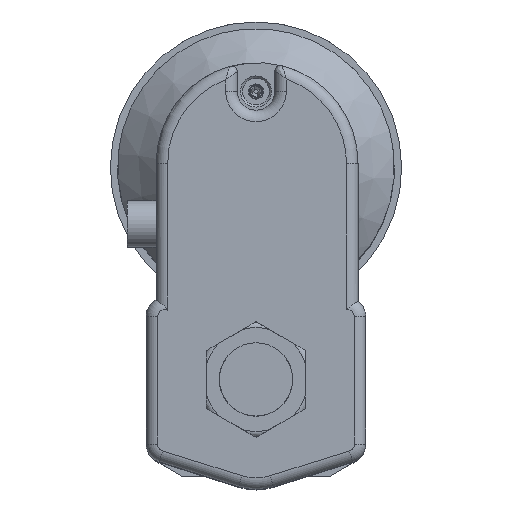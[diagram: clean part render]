
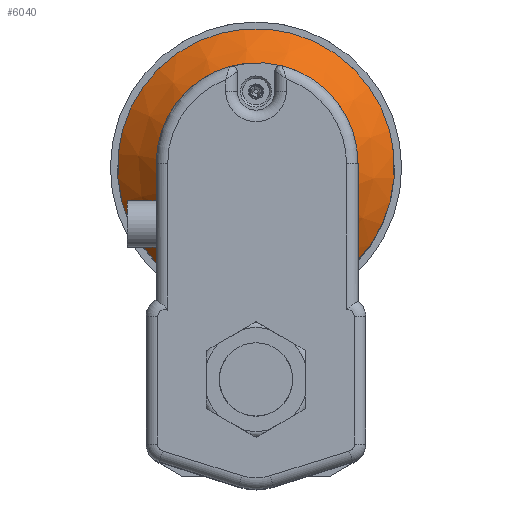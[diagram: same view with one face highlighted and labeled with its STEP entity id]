
A CAD part, top view. The second image highlights one B-rep face of the part: STEP entity #6040.
In plain terms, the highlighted conical face has half-angle 45 degrees and reference radius 48 mm.
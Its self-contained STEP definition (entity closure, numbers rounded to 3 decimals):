
#127 = VERTEX_POINT ( 'NONE', #240 ) ;
#145 = VERTEX_POINT ( 'NONE', #306 ) ;
#240 = CARTESIAN_POINT ( 'NONE',  ( 27.908, 34.847, 53.5 ) ) ;
#306 = CARTESIAN_POINT ( 'NONE',  ( -27.908, 34.847, 53.5 ) ) ;
#928 = CIRCLE ( 'NONE', #3427, 48. ) ;
#930 = CIRCLE ( 'NONE', #3430, 34. ) ;
#1271 = FACE_OUTER_BOUND ( 'NONE', #5586, .T. ) ;
#1272 = CONICAL_SURFACE ( 'NONE', #2728, 48., 0.785 ) ;
#1274 = FACE_BOUND ( 'NONE', #5624, .T. ) ;
#2075 = DIRECTION ( 'NONE',  ( 0., 1., 0. ) ) ;
#2086 = CARTESIAN_POINT ( 'NONE',  ( 0., 73.9, 53.5 ) ) ;
#2087 = DIRECTION ( 'NONE',  ( 0., 0., -1. ) ) ;
#2399 = VERTEX_POINT ( 'NONE', #2400 ) ;
#2400 = CARTESIAN_POINT ( 'NONE',  ( 0., 39.9, 67.5 ) ) ;
#2728 = AXIS2_PLACEMENT_3D ( 'NONE', #2086, #2087, #2075 ) ;
#3427 = AXIS2_PLACEMENT_3D ( 'NONE', #8977, #8990, #8991 ) ;
#3430 = AXIS2_PLACEMENT_3D ( 'NONE', #8982, #8992, #8993 ) ;
#4682 = EDGE_CURVE ( 'NONE', #145, #127, #4827, .T. ) ;
#4711 = EDGE_CURVE ( 'NONE', #127, #145, #928, .T. ) ;
#4712 = EDGE_CURVE ( 'NONE', #2399, #2399, #930, .T. ) ;
#4827 = B_SPLINE_CURVE_WITH_KNOTS ( 'NONE', 3,
 ( #8893, #8899, #8900, #8901, #8902, #8903, #8904, #8905, #8906, #8907, #8908, #8909, #8910, #8911, #8912, #8913, #8914, #8915, #8916, #8917, #8918, #8919, #8920, #8921, #8922, #8923 ),
 .UNSPECIFIED., .F., .F.,
 ( 4, 2, 2, 2, 2, 2, 2, 2, 2, 2, 2, 2, 4 ),
 ( 0., 0.004, 0.007, 0.015, 0.018, 0.022, 0.026, 0.029, 0.037, 0.04, 0.044, 0.051, 0.059 ),
 .UNSPECIFIED. ) ;
#5586 = EDGE_LOOP ( 'NONE', ( #5902, #5903 ) ) ;
#5624 = EDGE_LOOP ( 'NONE', ( #5901 ) ) ;
#5901 = ORIENTED_EDGE ( 'NONE', *, *, #4712, .F. ) ;
#5902 = ORIENTED_EDGE ( 'NONE', *, *, #4711, .T. ) ;
#5903 = ORIENTED_EDGE ( 'NONE', *, *, #4682, .T. ) ;
#6040 = ADVANCED_FACE ( 'NONE', ( #1274, #1271 ), #1272, .T. ) ;
#8893 = CARTESIAN_POINT ( 'NONE',  ( -27.908, 34.847, 53.5 ) ) ;
#8899 = CARTESIAN_POINT ( 'NONE',  ( -26.826, 34.768, 54.065 ) ) ;
#8900 = CARTESIAN_POINT ( 'NONE',  ( -25.733, 34.688, 54.609 ) ) ;
#8901 = CARTESIAN_POINT ( 'NONE',  ( -23.531, 34.53, 55.644 ) ) ;
#8902 = CARTESIAN_POINT ( 'NONE',  ( -22.421, 34.452, 56.137 ) ) ;
#8903 = CARTESIAN_POINT ( 'NONE',  ( -19.06, 34.223, 57.53 ) ) ;
#8904 = CARTESIAN_POINT ( 'NONE',  ( -16.779, 34.077, 58.344 ) ) ;
#8905 = CARTESIAN_POINT ( 'NONE',  ( -13.28, 33.887, 59.356 ) ) ;
#8906 = CARTESIAN_POINT ( 'NONE',  ( -12.101, 33.829, 59.657 ) ) ;
#8907 = CARTESIAN_POINT ( 'NONE',  ( -9.715, 33.725, 60.183 ) ) ;
#8908 = CARTESIAN_POINT ( 'NONE',  ( -8.505, 33.679, 60.407 ) ) ;
#8909 = CARTESIAN_POINT ( 'NONE',  ( -6.081, 33.605, 60.767 ) ) ;
#8910 = CARTESIAN_POINT ( 'NONE',  ( -4.863, 33.577, 60.903 ) ) ;
#8911 = CARTESIAN_POINT ( 'NONE',  ( -2.415, 33.538, 61.085 ) ) ;
#8912 = CARTESIAN_POINT ( 'NONE',  ( -1.188, 33.529, 61.13 ) ) ;
#8913 = CARTESIAN_POINT ( 'NONE',  ( 2.477, 33.529, 61.127 ) ) ;
#8914 = CARTESIAN_POINT ( 'NONE',  ( 4.908, 33.569, 60.942 ) ) ;
#8915 = CARTESIAN_POINT ( 'NONE',  ( 8.537, 33.68, 60.402 ) ) ;
#8916 = CARTESIAN_POINT ( 'NONE',  ( 9.746, 33.726, 60.177 ) ) ;
#8917 = CARTESIAN_POINT ( 'NONE',  ( 12.13, 33.83, 59.65 ) ) ;
#8918 = CARTESIAN_POINT ( 'NONE',  ( 13.307, 33.888, 59.348 ) ) ;
#8919 = CARTESIAN_POINT ( 'NONE',  ( 16.801, 34.078, 58.337 ) ) ;
#8920 = CARTESIAN_POINT ( 'NONE',  ( 19.078, 34.224, 57.523 ) ) ;
#8921 = CARTESIAN_POINT ( 'NONE',  ( 23.55, 34.529, 55.668 ) ) ;
#8922 = CARTESIAN_POINT ( 'NONE',  ( 25.745, 34.688, 54.629 ) ) ;
#8923 = CARTESIAN_POINT ( 'NONE',  ( 27.908, 34.847, 53.5 ) ) ;
#8977 = CARTESIAN_POINT ( 'NONE',  ( 0., 73.9, 53.5 ) ) ;
#8982 = CARTESIAN_POINT ( 'NONE',  ( 0., 73.9, 67.5 ) ) ;
#8990 = DIRECTION ( 'NONE',  ( 0., 0., 1. ) ) ;
#8991 = DIRECTION ( 'NONE',  ( 0., -1., 0. ) ) ;
#8992 = DIRECTION ( 'NONE',  ( 0., 0., 1. ) ) ;
#8993 = DIRECTION ( 'NONE',  ( 0., -1., 0. ) ) ;
